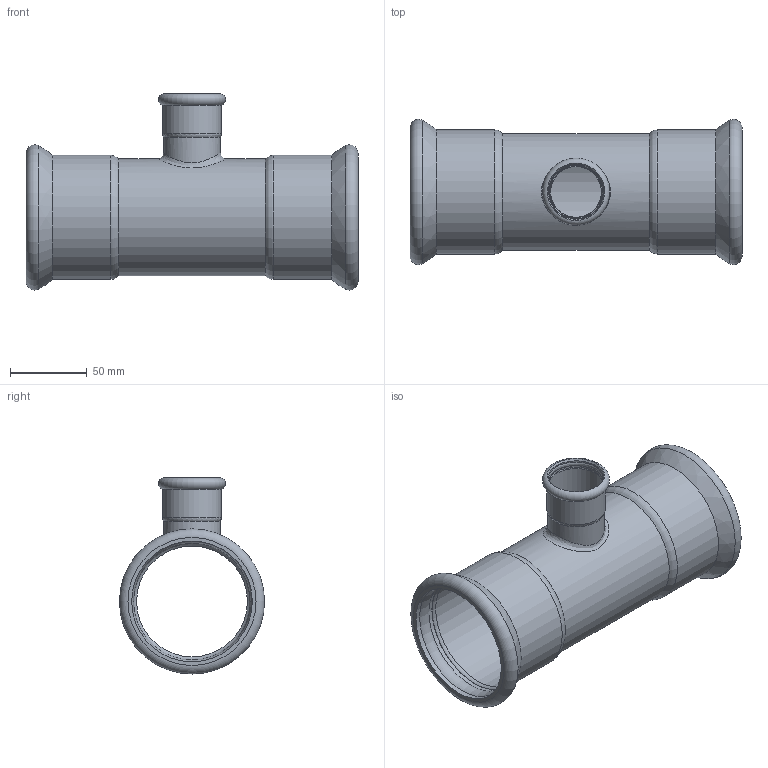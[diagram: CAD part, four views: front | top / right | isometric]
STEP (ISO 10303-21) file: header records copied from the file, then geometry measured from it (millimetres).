
FILE_DESCRIPTION(/* description */ ('TEE RIDOTTO 76,1-35-76,1'),/* implementation_level */ '2;1');
FILE_NAME(/* name */ 'T:\A_ARTICOLI\ARTICOLI PRODOTTI_WEB\Articoli_STEELPRES_WEB\Temporary Step\392076035_Steelpres.ipt.step',/* time_stamp */ '2016-01-19T16:43:03+01:00',/* author */ ('Ghirlinghelli Diego'),/* organization */ (''),/* preprocessor_version */ 'ST-DEVELOPER v15.2',/* originating_system */ 'Autodesk Inventor 2014',/* authorisation */ 'R.M. S.p.A. si riserva a termini di legge la proprietà del presente disegno con divieto di riprodurlo o comunicarlo a terzi senza sua autorizzazione scritta');
FILE_SCHEMA (('AUTOMOTIVE_DESIGN { 1 0 10303 214 3 1 1 }'));
Length unit declared in the file: millimetre
Products named in the file (1): 392076035_Steelpres
Bounding box: 216 x 94.49 x 127.6 mm (x, y, z)
Volume: 152303.5 mm3; surface area: 118855.2 mm2
Topology: 1 solids, 1 shells, 42 faces, 98 edges, 59 vertices
Faces by surface type: cylinder 17, torus 15, bspline 4, cone 3, plane 3
Full cylindrical faces by diameter (mm): 33 x1, 34 x1, 35.4 x1, 35.8 x2, 37 x1, 38.4 x1, 72.1 x1, 76.1 x1, 76.7 x2, 78.5 x4, 80.7 x2
Entity records: 1323 total; most frequent: CARTESIAN_POINT 548, DIRECTION 168, ORIENTED_EDGE 102, AXIS2_PLACEMENT_3D 84, EDGE_LOOP 82, EDGE_CURVE 51, VERTEX_POINT 47, CIRCLE 45
